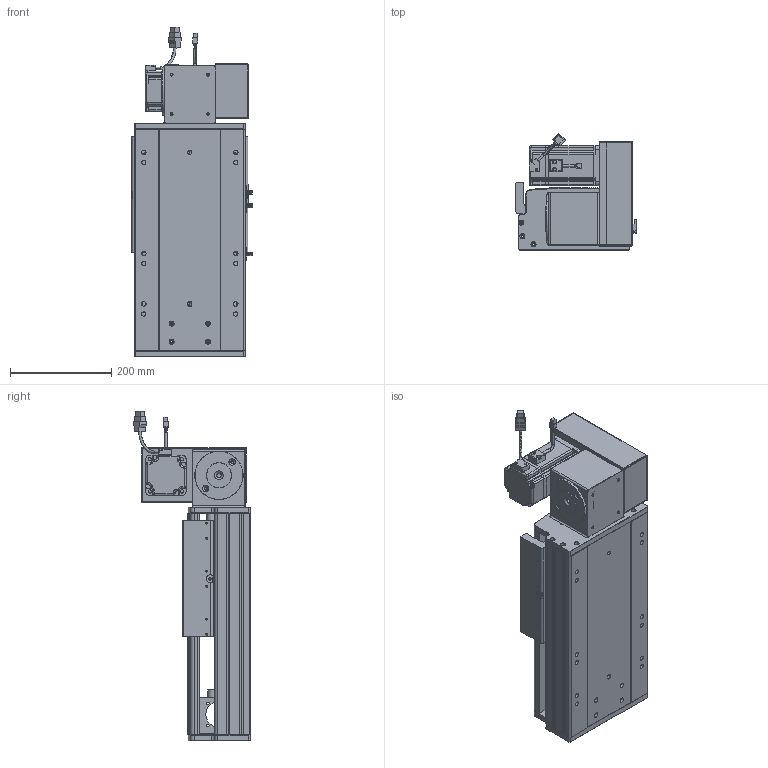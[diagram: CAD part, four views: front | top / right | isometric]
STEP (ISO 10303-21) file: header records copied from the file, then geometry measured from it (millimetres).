
FILE_DESCRIPTION (( 'STEP AP203' ), '1' );
FILE_NAME ('RY220-T-300-UR.SLDASM_100.step', '2022-07-25T08:42:14', ( '' ), ( '' ), 'SwSTEP 2.0', 'SolidWorks 2016', '' );
FILE_SCHEMA (( 'CONFIG_CONTROL_DESIGN' ));
Length unit declared in the file: millimetre
Products named in the file (14): RY220-同步轮副支撑座6304×2; 110A-T-肮祭謫釱傷裔; RY220翋肮祭謫裔啣; RY220-俋离672覜茼んえ; RY220-T-300-UR.SLDASM_100; RY220圉猾敕々湍臏賑輸; RY220-T-蛌殏萇儂假蚾啣(750W); RY220-T-300-奻裔啣_100; RY220翋肮祭謫釱; 覜茼ん672; RY220-T-湍謫欶(鍼踢); RY220-T菁釱-300_100; 怢湛750W_ECMA-CX0807ES; 滅袉蝶18-15
Assembly tree (18 placements, depth 2):
  RY220-T-300-UR.SLDASM_100
    RY220-T菁釱-300_100
    RY220翋肮祭謫釱
    覜茼ん672  x3
    RY220圉猾敕々湍臏賑輸
    RY220-T-300-奻裔啣_100
    RY220-俋离672覜茼んえ
    滅袉蝶18-15  x3
    RY220翋肮祭謫裔啣  x2
    110A-T-肮祭謫釱傷裔
    怢湛750W_ECMA-CX0807ES
    RY220-T-湍謫欶(鍼踢)
    RY220-T-蛌殏萇儂假蚾啣(750W)
    RY220-同步轮副支撑座6304×2
Bounding box: 238.7 x 231.74 x 653.27 mm (x, y, z)
Volume: 6434215.2 mm3; surface area: 1682251.9 mm2
Topology: 19 solids, 19 shells, 2448 faces, 6743 edges, 4312 vertices
Faces by surface type: cylinder 1108, plane 1069, cone 189, bspline 56, sphere 16, torus 10
Entity records: 81315 total; most frequent: CARTESIAN_POINT 23359, ORIENTED_EDGE 12090, DIRECTION 11268, EDGE_CURVE 6045, VERTEX_POINT 3936, AXIS2_PLACEMENT_3D 3930, VECTOR 3408, LINE 3408
